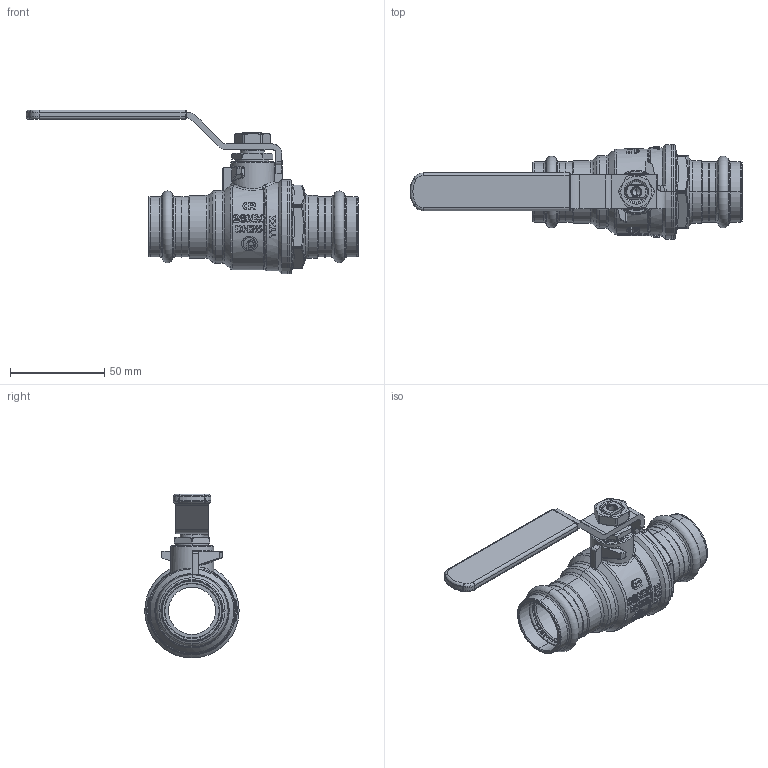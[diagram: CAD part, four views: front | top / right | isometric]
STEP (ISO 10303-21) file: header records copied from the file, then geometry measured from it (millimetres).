
FILE_DESCRIPTION(('Open CASCADE Model'),'2;1');
FILE_NAME('Open CASCADE Shape Model','2021-11-22T12:06:04',('Author'),( 'Open CASCADE'),'Open CASCADE STEP processor 7.3','Open CASCADE 7.3' ,'Unknown');
FILE_SCHEMA(('AUTOMOTIVE_DESIGN { 1 0 10303 214 1 1 1 1 }'));
Length unit declared in the file: millimetre
Products named in the file (22): Open CASCADE STEP translator 7.3 1; Open CASCADE STEP translator 7.3 1.1; Open CASCADE STEP translator 7.3 1.2; Open CASCADE STEP translator 7.3 1.3; Open CASCADE STEP translator 7.3 1.4; Open CASCADE STEP translator 7.3 1.5; Open CASCADE STEP translator 7.3 1.6; Open CASCADE STEP translator 7.3 1.7; Open CASCADE STEP translator 7.3 1.8; Open CASCADE STEP translator 7.3 1.9; Open CASCADE STEP translator 7.3 1.10; Open CASCADE STEP translator 7.3 1.11; Open CASCADE STEP translator 7.3 1.12; Open CASCADE STEP translator 7.3 1.13; Open CASCADE STEP translator 7.3 1.14; Open CASCADE STEP translator 7.3 1.15; Open CASCADE STEP translator 7.3 1.16; Open CASCADE STEP translator 7.3 1.17; Open CASCADE STEP translator 7.3 1.18; Open CASCADE STEP translator 7.3 1.19; Open CASCADE STEP translator 7.3 1.20; Open CASCADE STEP translator 7.3 1.21
Assembly tree (21 placements, depth 2):
  Open CASCADE STEP translator 7.3 1
    Open CASCADE STEP translator 7.3 1.1
    Open CASCADE STEP translator 7.3 1.2
    Open CASCADE STEP translator 7.3 1.3
    Open CASCADE STEP translator 7.3 1.4
    Open CASCADE STEP translator 7.3 1.5
    Open CASCADE STEP translator 7.3 1.6
    Open CASCADE STEP translator 7.3 1.7
    Open CASCADE STEP translator 7.3 1.8
    Open CASCADE STEP translator 7.3 1.9
    Open CASCADE STEP translator 7.3 1.10
    Open CASCADE STEP translator 7.3 1.11
    Open CASCADE STEP translator 7.3 1.12
    Open CASCADE STEP translator 7.3 1.13
    Open CASCADE STEP translator 7.3 1.14
    Open CASCADE STEP translator 7.3 1.15
    Open CASCADE STEP translator 7.3 1.16
    Open CASCADE STEP translator 7.3 1.17
    Open CASCADE STEP translator 7.3 1.18
    Open CASCADE STEP translator 7.3 1.19
    Open CASCADE STEP translator 7.3 1.20
    Open CASCADE STEP translator 7.3 1.21
Bounding box: 176 x 50 x 86.9 mm (x, y, z)
Volume: 79968 mm3; surface area: 67964.3 mm2
Topology: 15 solids, 21 shells, 1796 faces, 4626 edges, 2910 vertices
Faces by surface type: bspline 641, extrusion 457, cylinder 251, plane 198, torus 114, cone 113, revolution 16, sphere 6
Entity records: 265913 total; most frequent: CARTESIAN_POINT 188761, ORIENTED_EDGE 9222, PCURVE 9222, DEFINITIONAL_REPRESENTATION 9222, DIRECTION 8569, B_SPLINE_CURVE_WITH_KNOTS 8390, VECTOR 5197, LINE 4740
